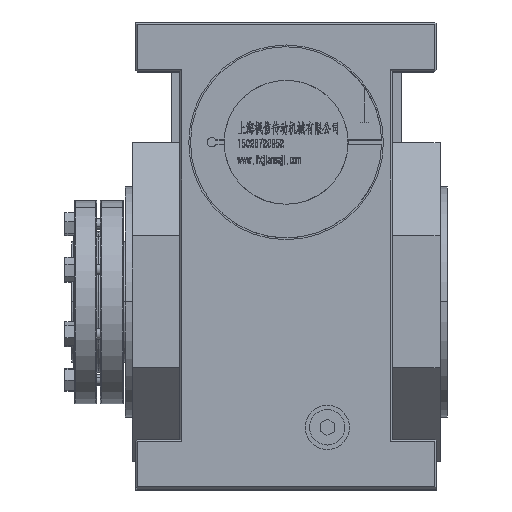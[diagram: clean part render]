
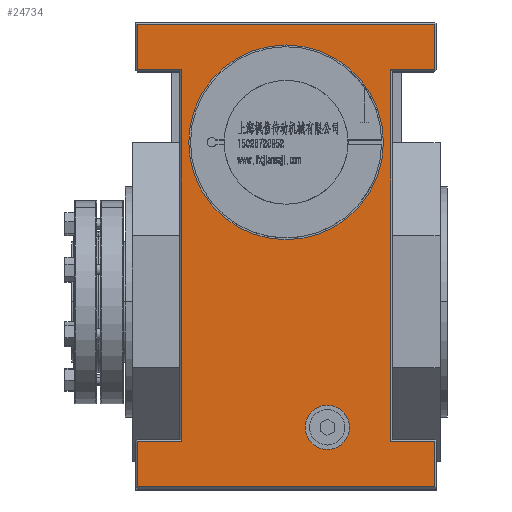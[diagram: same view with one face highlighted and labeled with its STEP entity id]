
A CAD part, top view. The second image highlights one B-rep face of the part: STEP entity #24734.
In plain terms, the highlighted planar face has unit normal (0, 0, 1).
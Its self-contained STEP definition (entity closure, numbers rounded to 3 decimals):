
#1000 = VERTEX_POINT ( 'NONE', #5372 ) ;
#1529 = LINE ( 'NONE', #78777, #105310 ) ;
#2554 = ORIENTED_EDGE ( 'NONE', *, *, #22576, .T. ) ;
#2914 = EDGE_CURVE ( 'NONE', #8185, #4812, #92801, .T. ) ;
#3269 = VERTEX_POINT ( 'NONE', #75430 ) ;
#4393 = DIRECTION ( 'NONE',  ( -1., 0., 0. ) ) ;
#4671 = EDGE_CURVE ( 'NONE', #4812, #54294, #88511, .T. ) ;
#4812 = VERTEX_POINT ( 'NONE', #66202 ) ;
#5016 = CARTESIAN_POINT ( 'NONE',  ( 0., 90., 114. ) ) ;
#5372 = CARTESIAN_POINT ( 'NONE',  ( 84., 156.5, 114. ) ) ;
#5536 = VERTEX_POINT ( 'NONE', #61305 ) ;
#5857 = LINE ( 'NONE', #101444, #18607 ) ;
#7265 = FACE_OUTER_BOUND ( 'NONE', #9159, .T. ) ;
#7656 = LINE ( 'NONE', #24864, #66716 ) ;
#8185 = VERTEX_POINT ( 'NONE', #11250 ) ;
#9033 = CARTESIAN_POINT ( 'NONE',  ( 23.262, -71., 114. ) ) ;
#9159 = EDGE_LOOP ( 'NONE', ( #65036, #10234, #102925, #52614, #53231, #53839, #34019, #46963, #61237, #2554, #78950, #73557 ) ) ;
#9441 = CARTESIAN_POINT ( 'NONE',  ( -84., 156.5, 114. ) ) ;
#9570 = DIRECTION ( 'NONE',  ( 0., 0., 1. ) ) ;
#9694 = CARTESIAN_POINT ( 'NONE',  ( 23.262, -71., 114. ) ) ;
#10234 = ORIENTED_EDGE ( 'NONE', *, *, #77666, .T. ) ;
#11250 = CARTESIAN_POINT ( 'NONE',  ( -59., 131., 114. ) ) ;
#11781 = CARTESIAN_POINT ( 'NONE',  ( -85., -79., 114. ) ) ;
#11836 = EDGE_CURVE ( 'NONE', #96005, #54508, #47700, .T. ) ;
#12332 = DIRECTION ( 'NONE',  ( -1., 0., 0. ) ) ;
#13933 = FACE_BOUND ( 'NONE', #21226, .T. ) ;
#15027 = DIRECTION ( 'NONE',  ( -1., 0., 0. ) ) ;
#15797 = VECTOR ( 'NONE', #91159, 1000. ) ;
#15914 = CARTESIAN_POINT ( 'NONE',  ( -84., 158., 114. ) ) ;
#18607 = VECTOR ( 'NONE', #41413, 1000. ) ;
#18994 = VECTOR ( 'NONE', #93737, 1000. ) ;
#19263 = EDGE_CURVE ( 'NONE', #86382, #109235, #34649, .T. ) ;
#20588 = EDGE_CURVE ( 'NONE', #5536, #63137, #69745, .T. ) ;
#21226 = EDGE_LOOP ( 'NONE', ( #82304, #98557 ) ) ;
#22576 = EDGE_CURVE ( 'NONE', #63137, #77985, #24302, .T. ) ;
#22650 = CARTESIAN_POINT ( 'NONE',  ( 84., 131., 114. ) ) ;
#24302 = LINE ( 'NONE', #58777, #90075 ) ;
#24720 = DIRECTION ( 'NONE',  ( 1., 0., 0. ) ) ;
#24734 = ADVANCED_FACE ( 'NONE', ( #91775, #13933, #7265 ), #57849, .F. ) ;
#24864 = CARTESIAN_POINT ( 'NONE',  ( 59., 130., 114. ) ) ;
#29699 = VECTOR ( 'NONE', #48396, 1000. ) ;
#29989 = CARTESIAN_POINT ( 'NONE',  ( 84., -79., 114. ) ) ;
#30031 = AXIS2_PLACEMENT_3D ( 'NONE', #72301, #73941, #31113 ) ;
#30278 = VERTEX_POINT ( 'NONE', #38687 ) ;
#31113 = DIRECTION ( 'NONE',  ( 0., 1., 0. ) ) ;
#31784 = EDGE_CURVE ( 'NONE', #54508, #96005, #44234, .T. ) ;
#31958 = VERTEX_POINT ( 'NONE', #22650 ) ;
#32103 = DIRECTION ( 'NONE',  ( 0., 1., 0. ) ) ;
#34019 = ORIENTED_EDGE ( 'NONE', *, *, #4671, .T. ) ;
#34649 = CIRCLE ( 'NONE', #93260, 12.5 ) ;
#35679 = DIRECTION ( 'NONE',  ( 1., 0., 0. ) ) ;
#37227 = LINE ( 'NONE', #37777, #38879 ) ;
#37230 = VECTOR ( 'NONE', #12332, 1000. ) ;
#37777 = CARTESIAN_POINT ( 'NONE',  ( 85., 131., 114. ) ) ;
#38687 = CARTESIAN_POINT ( 'NONE',  ( -84., 131., 114. ) ) ;
#38857 = DIRECTION ( 'NONE',  ( 1., 0., 0. ) ) ;
#38879 = VECTOR ( 'NONE', #38857, 1000. ) ;
#39858 = CARTESIAN_POINT ( 'NONE',  ( 10.762, -71., 114. ) ) ;
#41413 = DIRECTION ( 'NONE',  ( 1., 0., 0. ) ) ;
#42292 = LINE ( 'NONE', #42841, #83415 ) ;
#42556 = EDGE_CURVE ( 'NONE', #109235, #86382, #73165, .T. ) ;
#42841 = CARTESIAN_POINT ( 'NONE',  ( 84., 156.5, 114. ) ) ;
#44234 = CIRCLE ( 'NONE', #30031, 55. ) ;
#44546 = CARTESIAN_POINT ( 'NONE',  ( -84., -79., 114. ) ) ;
#45531 = LINE ( 'NONE', #54981, #74382 ) ;
#46963 = ORIENTED_EDGE ( 'NONE', *, *, #109915, .T. ) ;
#47700 = CIRCLE ( 'NONE', #86747, 55. ) ;
#48396 = DIRECTION ( 'NONE',  ( 0., -1., 0. ) ) ;
#49174 = ORIENTED_EDGE ( 'NONE', *, *, #19263, .F. ) ;
#49491 = DIRECTION ( 'NONE',  ( 0., 0., -1. ) ) ;
#49832 = VERTEX_POINT ( 'NONE', #73867 ) ;
#51874 = AXIS2_PLACEMENT_3D ( 'NONE', #9694, #85322, #24720 ) ;
#52015 = LINE ( 'NONE', #15914, #18994 ) ;
#52614 = ORIENTED_EDGE ( 'NONE', *, *, #62017, .T. ) ;
#53231 = ORIENTED_EDGE ( 'NONE', *, *, #88762, .T. ) ;
#53839 = ORIENTED_EDGE ( 'NONE', *, *, #2914, .T. ) ;
#54170 = CARTESIAN_POINT ( 'NONE',  ( 85., -104.5, 114. ) ) ;
#54294 = VERTEX_POINT ( 'NONE', #44546 ) ;
#54508 = VERTEX_POINT ( 'NONE', #68861 ) ;
#54981 = CARTESIAN_POINT ( 'NONE',  ( 85., -79., 114. ) ) ;
#57847 = CARTESIAN_POINT ( 'NONE',  ( -84., 158., 114. ) ) ;
#57849 = PLANE ( 'NONE',  #86024 ) ;
#58381 = CARTESIAN_POINT ( 'NONE',  ( 85., 158., 114. ) ) ;
#58777 = CARTESIAN_POINT ( 'NONE',  ( 84., -78., 114. ) ) ;
#61237 = ORIENTED_EDGE ( 'NONE', *, *, #20588, .T. ) ;
#61305 = CARTESIAN_POINT ( 'NONE',  ( -84., -104.5, 114. ) ) ;
#62017 = EDGE_CURVE ( 'NONE', #66118, #30278, #90679, .T. ) ;
#63137 = VERTEX_POINT ( 'NONE', #77805 ) ;
#63163 = CARTESIAN_POINT ( 'NONE',  ( -55., 90., 114. ) ) ;
#63400 = DIRECTION ( 'NONE',  ( 0., 1., 0. ) ) ;
#65036 = ORIENTED_EDGE ( 'NONE', *, *, #76888, .T. ) ;
#66118 = VERTEX_POINT ( 'NONE', #9441 ) ;
#66202 = CARTESIAN_POINT ( 'NONE',  ( -59., -79., 114. ) ) ;
#66716 = VECTOR ( 'NONE', #68743, 1000. ) ;
#66859 = EDGE_LOOP ( 'NONE', ( #91451, #49174 ) ) ;
#68743 = DIRECTION ( 'NONE',  ( 0., 1., 0. ) ) ;
#68774 = DIRECTION ( 'NONE',  ( -1., 0., 0. ) ) ;
#68861 = CARTESIAN_POINT ( 'NONE',  ( 55., 90., 114. ) ) ;
#69745 = LINE ( 'NONE', #54170, #82756 ) ;
#72301 = CARTESIAN_POINT ( 'NONE',  ( 0., 90., 114. ) ) ;
#73165 = CIRCLE ( 'NONE', #51874, 12.5 ) ;
#73557 = ORIENTED_EDGE ( 'NONE', *, *, #89918, .T. ) ;
#73867 = CARTESIAN_POINT ( 'NONE',  ( 59., 131., 114. ) ) ;
#73941 = DIRECTION ( 'NONE',  ( 0., 0., 1. ) ) ;
#74382 = VECTOR ( 'NONE', #4393, 1000. ) ;
#75430 = CARTESIAN_POINT ( 'NONE',  ( 59., -79., 114. ) ) ;
#76140 = EDGE_CURVE ( 'NONE', #77985, #3269, #45531, .T. ) ;
#76888 = EDGE_CURVE ( 'NONE', #49832, #31958, #37227, .T. ) ;
#77666 = EDGE_CURVE ( 'NONE', #31958, #1000, #42292, .T. ) ;
#77805 = CARTESIAN_POINT ( 'NONE',  ( 84., -104.5, 114. ) ) ;
#77985 = VERTEX_POINT ( 'NONE', #29989 ) ;
#78777 = CARTESIAN_POINT ( 'NONE',  ( 85., 156.5, 114. ) ) ;
#78950 = ORIENTED_EDGE ( 'NONE', *, *, #76140, .T. ) ;
#79503 = CARTESIAN_POINT ( 'NONE',  ( 35.762, -71., 114. ) ) ;
#82304 = ORIENTED_EDGE ( 'NONE', *, *, #11836, .F. ) ;
#82756 = VECTOR ( 'NONE', #103662, 1000. ) ;
#82935 = EDGE_CURVE ( 'NONE', #1000, #66118, #1529, .T. ) ;
#83415 = VECTOR ( 'NONE', #101779, 1000. ) ;
#85322 = DIRECTION ( 'NONE',  ( 0., 0., 1. ) ) ;
#86024 = AXIS2_PLACEMENT_3D ( 'NONE', #58381, #49491, #15027 ) ;
#86382 = VERTEX_POINT ( 'NONE', #39858 ) ;
#86747 = AXIS2_PLACEMENT_3D ( 'NONE', #5016, #107292, #63400 ) ;
#88511 = LINE ( 'NONE', #11781, #37230 ) ;
#88762 = EDGE_CURVE ( 'NONE', #30278, #8185, #5857, .T. ) ;
#89918 = EDGE_CURVE ( 'NONE', #3269, #49832, #7656, .T. ) ;
#90075 = VECTOR ( 'NONE', #32103, 1000. ) ;
#90679 = LINE ( 'NONE', #57847, #29699 ) ;
#91159 = DIRECTION ( 'NONE',  ( 0., -1., 0. ) ) ;
#91451 = ORIENTED_EDGE ( 'NONE', *, *, #42556, .F. ) ;
#91775 = FACE_BOUND ( 'NONE', #66859, .T. ) ;
#92801 = LINE ( 'NONE', #109480, #15797 ) ;
#93260 = AXIS2_PLACEMENT_3D ( 'NONE', #9033, #9570, #35679 ) ;
#93737 = DIRECTION ( 'NONE',  ( 0., -1., 0. ) ) ;
#96005 = VERTEX_POINT ( 'NONE', #63163 ) ;
#98557 = ORIENTED_EDGE ( 'NONE', *, *, #31784, .F. ) ;
#101444 = CARTESIAN_POINT ( 'NONE',  ( -60., 131., 114. ) ) ;
#101779 = DIRECTION ( 'NONE',  ( 0., 1., 0. ) ) ;
#102925 = ORIENTED_EDGE ( 'NONE', *, *, #82935, .T. ) ;
#103662 = DIRECTION ( 'NONE',  ( 1., 0., 0. ) ) ;
#105310 = VECTOR ( 'NONE', #68774, 1000. ) ;
#107292 = DIRECTION ( 'NONE',  ( 0., 0., 1. ) ) ;
#109235 = VERTEX_POINT ( 'NONE', #79503 ) ;
#109480 = CARTESIAN_POINT ( 'NONE',  ( -59., -78., 114. ) ) ;
#109915 = EDGE_CURVE ( 'NONE', #54294, #5536, #52015, .T. ) ;
